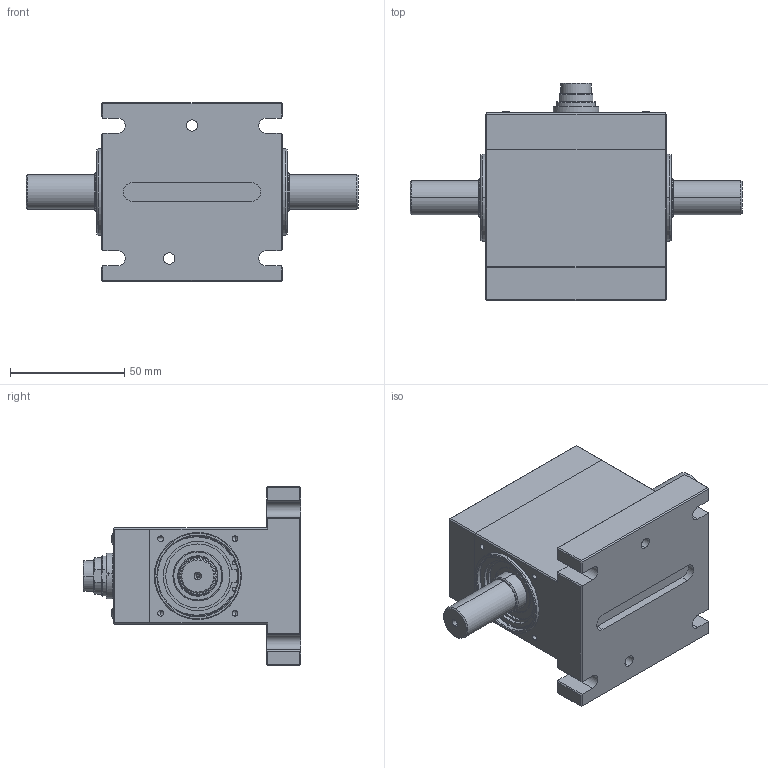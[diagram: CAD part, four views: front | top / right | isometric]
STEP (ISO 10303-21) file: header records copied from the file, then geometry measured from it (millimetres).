
FILE_DESCRIPTION (( 'STEP AP214' ), '1' );
FILE_NAME ('DRVL-II-F.STEP', '2020-08-31T12:57:50', ( '' ), ( '' ), 'SwSTEP 2.0', 'SolidWorks 2020', '' );
FILE_SCHEMA (( 'AUTOMOTIVE_DESIGN' ));
Length unit declared in the file: millimetre
Products named in the file (1): DRVL-II-F
Bounding box: 145 x 95.1 x 78 mm (x, y, z)
Volume: 238065.6 mm3; surface area: 86425.3 mm2
Topology: 28 solids, 52 shells, 3131 faces, 8417 edges, 5527 vertices
Faces by surface type: plane 1450, bspline 924, cylinder 374, cone 147, torus 130, sphere 106
Entity records: 170932 total; most frequent: CARTESIAN_POINT 64846, ORIENTED_EDGE 16298, DIRECTION 11777, EDGE_CURVE 8149, VERTEX_POINT 5383, LINE 4735, VECTOR 4735, AXIS2_PLACEMENT_3D 3521
